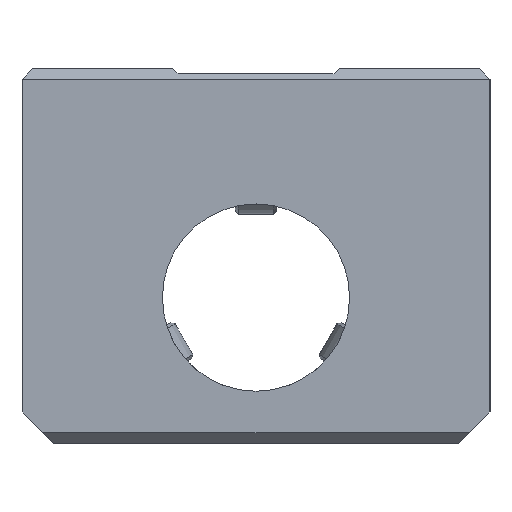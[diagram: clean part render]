
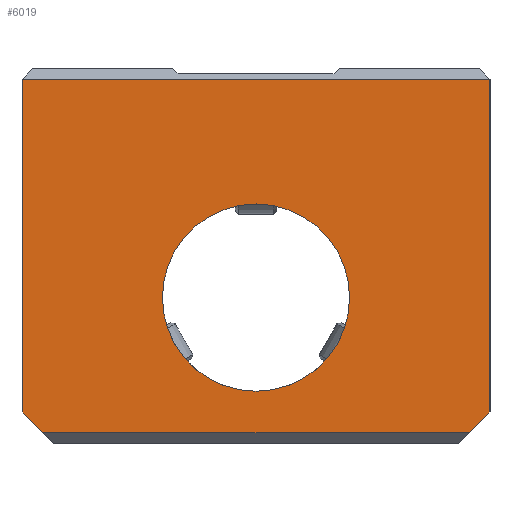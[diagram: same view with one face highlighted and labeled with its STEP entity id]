
A CAD part, left-side view. The second image highlights one B-rep face of the part: STEP entity #6019.
In plain terms, the highlighted planar face has unit normal (-1, 0, 0).
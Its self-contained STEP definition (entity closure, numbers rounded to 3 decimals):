
#3853=CARTESIAN_POINT('',(-27.0,-22.5,21.));
#3854=VERTEX_POINT('',#3853);
#3863=CARTESIAN_POINT('',(-27.0,-22.5,-11.));
#3864=VERTEX_POINT('',#3863);
#3865=CARTESIAN_POINT('',(-27.0,-22.5,21.));
#3866=DIRECTION('',(0.0,0.0,-1.0));
#3867=VECTOR('',#3866,32.0);
#3868=LINE('',#3865,#3867);
#3869=EDGE_CURVE('',#3854,#3864,#3868,.T.);
#4611=CARTESIAN_POINT('',(-27.0,20.5,-13.));
#4612=VERTEX_POINT('',#4611);
#4619=CARTESIAN_POINT('',(-27.0,22.5,-11.));
#4620=VERTEX_POINT('',#4619);
#4621=CARTESIAN_POINT('',(-27.0,20.5,-13.));
#4622=DIRECTION('',(0.0,0.707,0.707));
#4623=VECTOR('',#4622,2.828);
#4624=LINE('',#4621,#4623);
#4625=EDGE_CURVE('',#4612,#4620,#4624,.T.);
#4651=CARTESIAN_POINT('',(-27.0,-20.5,-13.));
#4652=VERTEX_POINT('',#4651);
#4659=CARTESIAN_POINT('',(-27.0,-20.5,-13.));
#4660=DIRECTION('',(0.0,1.0,0.0));
#4661=VECTOR('',#4660,41.0);
#4662=LINE('',#4659,#4661);
#4663=EDGE_CURVE('',#4652,#4612,#4662,.T.);
#4745=CARTESIAN_POINT('',(-27.0,22.5,21.));
#4746=VERTEX_POINT('',#4745);
#4753=CARTESIAN_POINT('',(-27.0,22.5,21.));
#4754=DIRECTION('',(0.0,-1.0,0.0));
#4755=VECTOR('',#4754,45.0);
#4756=LINE('',#4753,#4755);
#4757=EDGE_CURVE('',#4746,#3854,#4756,.T.);
#5026=CARTESIAN_POINT('',(-27.0,-22.5,-11.));
#5027=DIRECTION('',(0.0,0.707,-0.707));
#5028=VECTOR('',#5027,2.828);
#5029=LINE('',#5026,#5028);
#5030=EDGE_CURVE('',#3864,#4652,#5029,.T.);
#5075=CARTESIAN_POINT('',(-27.0,22.5,-11.));
#5076=DIRECTION('',(0.0,0.0,1.0));
#5077=VECTOR('',#5076,32.0);
#5078=LINE('',#5075,#5077);
#5079=EDGE_CURVE('',#4620,#4746,#5078,.T.);
#5958=CARTESIAN_POINT('',(-27.0,9.0,0.));
#5959=VERTEX_POINT('',#5958);
#5960=CARTESIAN_POINT('',(-27.0,0.0,0.0));
#5961=DIRECTION('',(1.0,0.0,0.0));
#5962=DIRECTION('',(0.0,-1.0,0.0));
#5963=AXIS2_PLACEMENT_3D('',#5960,#5961,#5962);
#5964=CIRCLE('',#5963,9.0);
#5965=EDGE_CURVE('',#5959,#5959,#5964,.T.);
#6003=CARTESIAN_POINT('',(-27.0,-15.25,21.75));
#6004=DIRECTION('',(1.0,0.0,0.0));
#6005=DIRECTION('',(0.0,0.0,-1.0));
#6006=AXIS2_PLACEMENT_3D('',#6003,#6004,#6005);
#6007=PLANE('',#6006);
#6008=ORIENTED_EDGE('',*,*,#4663,.F.);
#6009=ORIENTED_EDGE('',*,*,#5030,.F.);
#6010=ORIENTED_EDGE('',*,*,#3869,.F.);
#6011=ORIENTED_EDGE('',*,*,#4757,.F.);
#6012=ORIENTED_EDGE('',*,*,#5079,.F.);
#6013=ORIENTED_EDGE('',*,*,#4625,.F.);
#6014=EDGE_LOOP('',(#6008,#6009,#6010,#6011,#6012,#6013));
#6015=FACE_OUTER_BOUND('',#6014,.T.);
#6016=ORIENTED_EDGE('',*,*,#5965,.T.);
#6017=EDGE_LOOP('',(#6016));
#6018=FACE_BOUND('',#6017,.T.);
#6019=ADVANCED_FACE('',(#6015,#6018),#6007,.F.);
